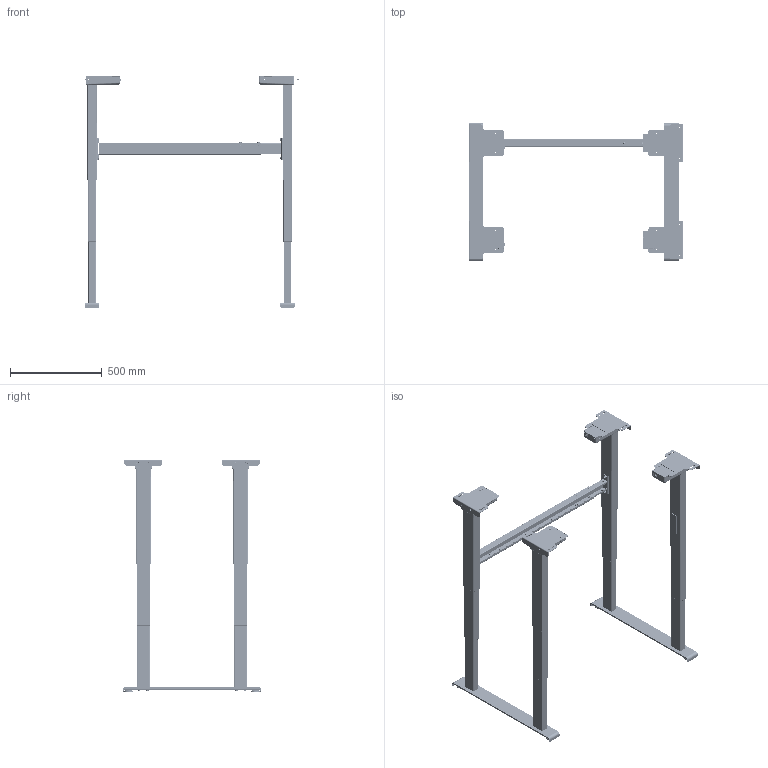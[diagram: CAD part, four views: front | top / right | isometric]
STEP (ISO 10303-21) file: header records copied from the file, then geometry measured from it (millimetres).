
FILE_DESCRIPTION(/* description */ ('Unknown'),/* implementation_level */ '2;1');
FILE_NAME(/* name */ 'Untergestell EBI 4665 S XX XX_00-Ausgefahren',/* time_stamp */ '2026-09-11T13:14:54+02:00',/* author */ ('Unknown'),/* organization */ ('Unknown'),/* preprocessor_version */ 'ST-DEVELOPER v20',/* originating_system */ 'Solid Edge',/* authorisation */ 'Unknown');
FILE_SCHEMA (('AUTOMOTIVE_DESIGN {1 0 10303 214 3 1 1}'));
Products named in the file (21): Untergestell EBI 4665 S XX XX; 127.00836; 127.00838_ohne Regulierfuss; Regulierfuss; 804.00047; EBI Aussenprofil; EBI Mittelprofil; EBI Innenprofil; EBI S Aussenprofil; 127.00846; E1 Traverse aussen S; E1 Traverse innen S; Halbrundkopfschraube M6x16; Scheibe ﾘ6,4; Sechskantmutter M6; Halbrundkopfschraube M8x10; 127.00813; Halbrundkopfschraube M6x32 S; Senkschraube M6x12 S; Senkschraube M6x12; Halbrundkopfschraube M6x32
Assembly tree (80 placements, depth 3):
  Untergestell EBI 4665 S XX XX
    127.00836  x2
      127.00838_ohne Regulierfuss
      Regulierfuss
    804.00047  x4
      EBI Aussenprofil
      EBI Mittelprofil
      EBI Innenprofil
      EBI S Aussenprofil
    127.00846
      E1 Traverse aussen S
      E1 Traverse innen S
      Halbrundkopfschraube M6x16  x4
      Scheibe ﾘ6,4  x4
      Sechskantmutter M6  x4
      Halbrundkopfschraube M8x10  x4
    127.00813  x4
    Halbrundkopfschraube M6x32 S  x9
    Senkschraube M6x12 S  x16
    Senkschraube M6x12  x12
    Halbrundkopfschraube M6x32  x7
Bounding box: 1170.2 x 750 x 1269.46 mm (x, y, z)
Volume: 6295932.7 mm3; surface area: 6309863.7 mm2
Topology: 100 solids, 100 shells, 8245 faces, 22519 edges, 14602 vertices
Faces by surface type: plane 4632, cylinder 2429, cone 456, torus 340, bspline 224, sphere 164
Full cylindrical faces by diameter (mm): 4.5 x16, 5 x64, 5.6 x64, 6 x56, 6.4 x4, 6.8 x8, 7 x16, 7.2 x48, 8 x4, 8.5 x4, 12 x20, 13.6 x4, 14 x4
Entity records: 75159 total; most frequent: CARTESIAN_POINT 16380, ORIENTED_EDGE 11806, DIRECTION 11295, EDGE_CURVE 5903, VERTEX_POINT 3862, LINE 3769, VECTOR 3769, AXIS2_PLACEMENT_3D 3763
